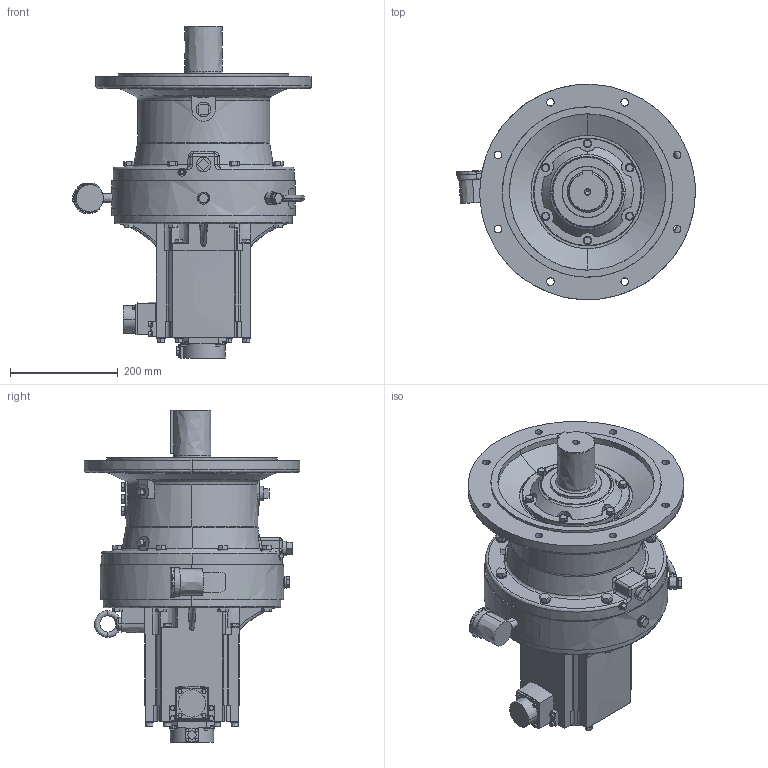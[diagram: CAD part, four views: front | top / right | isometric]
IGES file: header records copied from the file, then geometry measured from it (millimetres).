
Start section:  PTC IGES file: hg-sr702g1_1117.igs
Global section: file name: hg-sr702g1_1117.igs; native system: Creo Parametric by PTC Inc.; preprocessor: 2016380; author: PR03020; organization: Unknown; date: 20180822.151931; units: millimetre
Bounding box: 442.92 x 399.47 x 616 mm (x, y, z)
Volume: 25415157.6 mm3; surface area: 870630.6 mm2
Topology: 1 solids, 1 shells, 1214 faces, 2995 edges, 1891 vertices
Faces by surface type: bspline 1214
